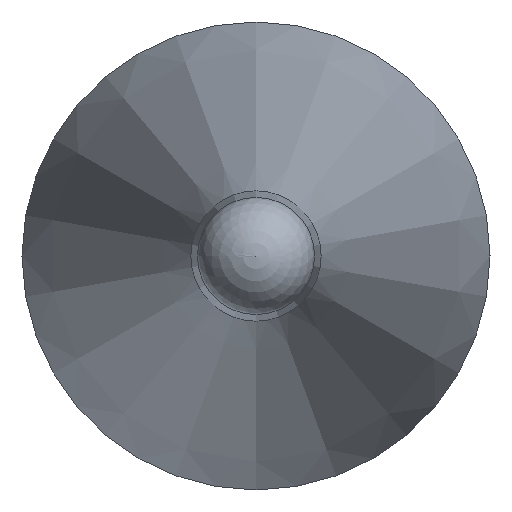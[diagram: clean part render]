
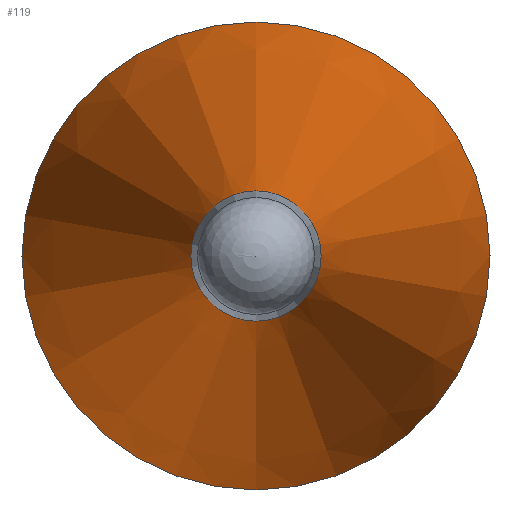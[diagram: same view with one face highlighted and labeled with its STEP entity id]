
A CAD part, left-side view. The second image highlights one B-rep face of the part: STEP entity #119.
In plain terms, the highlighted conical face has half-angle 12 degrees and reference radius 2 mm.
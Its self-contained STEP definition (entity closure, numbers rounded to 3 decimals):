
#97=CONICAL_SURFACE('',#194,2.,12.);
#106=FACE_BOUND('',#134,.T.);
#107=FACE_BOUND('',#135,.T.);
#119=ADVANCED_FACE('',(#106,#107),#97,.T.);
#134=EDGE_LOOP('',(#150));
#135=EDGE_LOOP('',(#151));
#150=ORIENTED_EDGE('',*,*,#172,.T.);
#151=ORIENTED_EDGE('',*,*,#173,.F.);
#164=VERTEX_POINT('',#249);
#165=VERTEX_POINT('',#252);
#172=EDGE_CURVE('',#164,#164,#180,.T.);
#173=EDGE_CURVE('',#165,#165,#181,.T.);
#180=CIRCLE('',#191,0.557);
#181=CIRCLE('',#193,2.);
#191=AXIS2_PLACEMENT_3D('',#248,#215,#216);
#193=AXIS2_PLACEMENT_3D('',#251,#219,#220);
#194=AXIS2_PLACEMENT_3D('',#253,#221,#222);
#215=DIRECTION('',(1.,0.,0.));
#216=DIRECTION('',(0.,0.,-1.));
#219=DIRECTION('',(1.,0.,0.));
#220=DIRECTION('',(0.,0.,-1.));
#221=DIRECTION('',(1.,0.,0.));
#222=DIRECTION('',(0.,0.,-1.));
#248=CARTESIAN_POINT('',(7899.912,6103.288,0.));
#249=CARTESIAN_POINT('',(7899.912,6103.288,-0.557));
#251=CARTESIAN_POINT('',(7906.702,6103.288,0.));
#252=CARTESIAN_POINT('',(7906.702,6103.288,-2.));
#253=CARTESIAN_POINT('',(7906.702,6103.288,0.));
